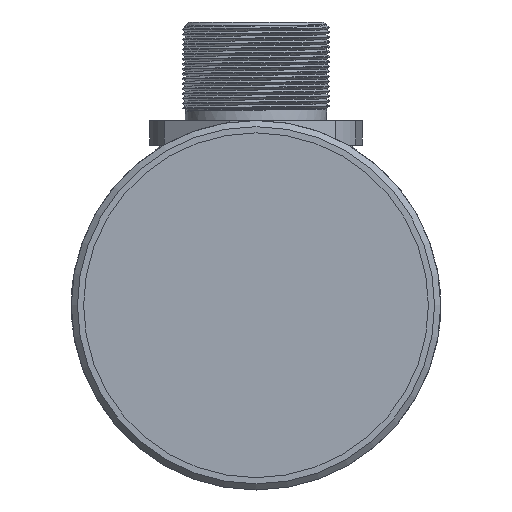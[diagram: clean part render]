
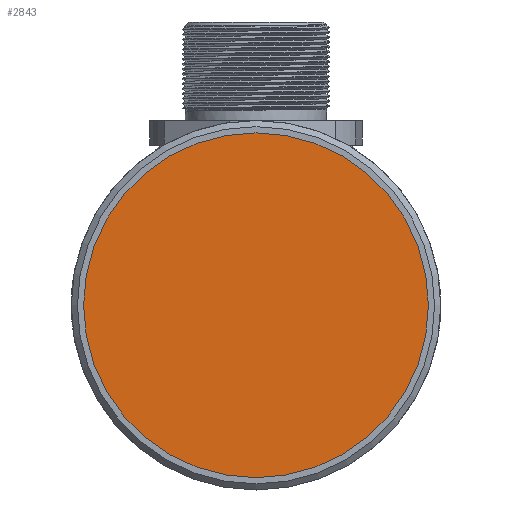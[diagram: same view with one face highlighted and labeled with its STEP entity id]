
A CAD part, left-side view. The second image highlights one B-rep face of the part: STEP entity #2843.
In plain terms, the highlighted planar face has unit normal (-1, 0, 0).
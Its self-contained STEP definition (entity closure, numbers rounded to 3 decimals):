
#663=PLANE('',#3013);
#1063=CIRCLE('',#3011,14.);
#1187=VERTEX_POINT('',#3469);
#1445=EDGE_CURVE('',#1187,#1187,#1063,.T.);
#1817=ORIENTED_EDGE('',*,*,#1445,.T.);
#2442=EDGE_LOOP('',(#1817));
#2643=FACE_BOUND('',#2442,.T.);
#2843=ADVANCED_FACE('',(#2643),#663,.T.);
#3011=AXIS2_PLACEMENT_3D('',#3468,#14691,#14692);
#3013=AXIS2_PLACEMENT_3D('',#3472,#14695,$);
#3468=CARTESIAN_POINT('',(1.,0.,0.));
#3469=CARTESIAN_POINT('',(1.,0.,14.));
#3472=CARTESIAN_POINT('',(1.,0.,0.));
#14691=DIRECTION('',(-1.,0.,0.));
#14692=DIRECTION('',(0.,0.,14.));
#14695=DIRECTION('',(-1.,0.,0.));
